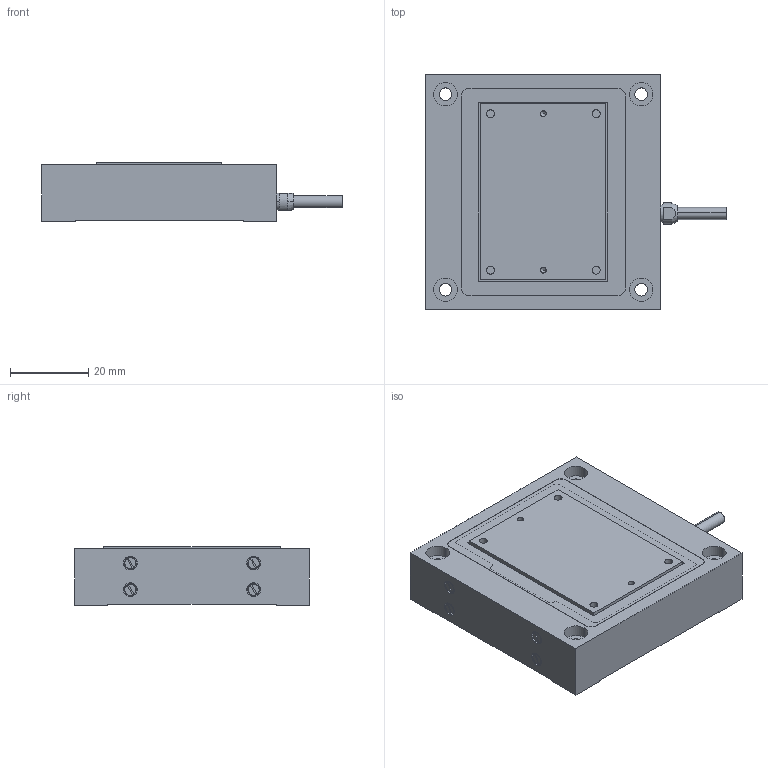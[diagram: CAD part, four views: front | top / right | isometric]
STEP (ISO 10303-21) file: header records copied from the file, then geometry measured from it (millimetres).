
FILE_DESCRIPTION (( 'STEP AP203' ), '1' );
FILE_NAME ('P-625.1XX.STEP', '2014-02-12T13:04:31', ( 'test' ), ( '' ), 'SwSTEP 2.0', 'SolidWorks 2012', '' );
FILE_SCHEMA (( 'CONFIG_CONTROL_DESIGN' ));
Length unit declared in the file: millimetre
Products named in the file (1): P-625.1XX
Bounding box: 76.7 x 60 x 15 mm (x, y, z)
Volume: 50570.2 mm3; surface area: 21797.5 mm2
Topology: 17 solids, 17 shells, 477 faces, 1145 edges, 701 vertices
Faces by surface type: cylinder 168, plane 163, cone 114, torus 32
Entity records: 14577 total; most frequent: CARTESIAN_POINT 3278, DIRECTION 2494, ORIENTED_EDGE 2218, EDGE_CURVE 1109, AXIS2_PLACEMENT_3D 989, VERTEX_POINT 701, EDGE_LOOP 548, LINE 516
